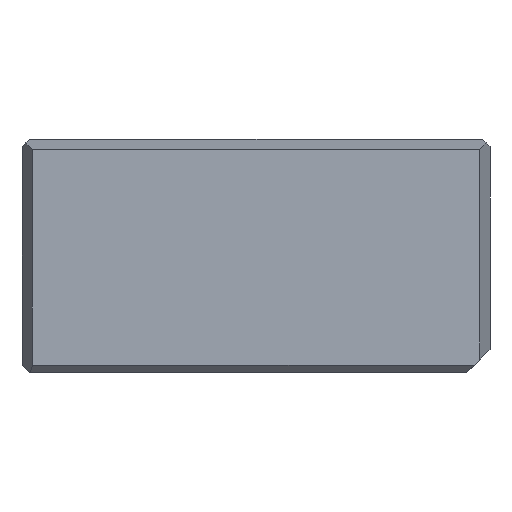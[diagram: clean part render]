
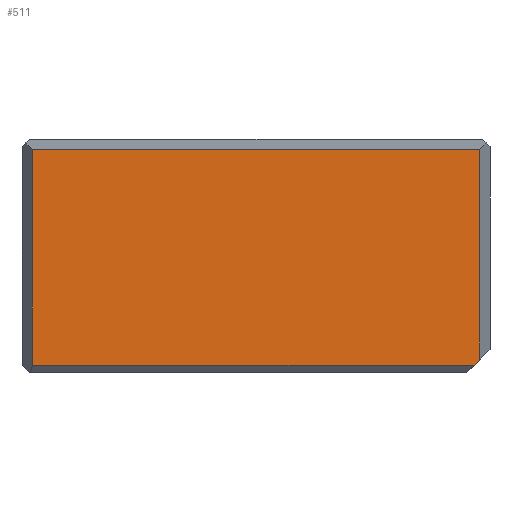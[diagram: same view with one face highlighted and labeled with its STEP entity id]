
A CAD part, left-side view. The second image highlights one B-rep face of the part: STEP entity #511.
In plain terms, the highlighted planar face has unit normal (-1, 0, 0).
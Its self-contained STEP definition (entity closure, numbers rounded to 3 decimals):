
#47=LINE('',#782,#99);
#55=LINE('',#800,#107);
#63=LINE('',#816,#115);
#71=LINE('',#831,#123);
#72=LINE('',#833,#124);
#99=VECTOR('',#642,10.);
#107=VECTOR('',#658,10.);
#115=VECTOR('',#672,10.);
#123=VECTOR('',#686,10.);
#124=VECTOR('',#689,10.);
#144=PLANE('',#569);
#168=FACE_OUTER_BOUND('',#198,.T.);
#198=EDGE_LOOP('',(#440,#441,#442,#443,#444));
#245=VERTEX_POINT('',#779);
#246=VERTEX_POINT('',#781);
#252=VERTEX_POINT('',#799);
#257=VERTEX_POINT('',#814);
#261=VERTEX_POINT('',#829);
#297=EDGE_CURVE('',#245,#246,#47,.T.);
#307=EDGE_CURVE('',#246,#252,#55,.T.);
#315=EDGE_CURVE('',#257,#245,#63,.T.);
#323=EDGE_CURVE('',#261,#257,#71,.T.);
#324=EDGE_CURVE('',#252,#261,#72,.T.);
#440=ORIENTED_EDGE('',*,*,#297,.F.);
#441=ORIENTED_EDGE('',*,*,#315,.F.);
#442=ORIENTED_EDGE('',*,*,#323,.F.);
#443=ORIENTED_EDGE('',*,*,#324,.F.);
#444=ORIENTED_EDGE('',*,*,#307,.F.);
#511=ADVANCED_FACE('',(#168),#144,.T.);
#569=AXIS2_PLACEMENT_3D('',#836,#693,#694);
#642=DIRECTION('',(0.,1.,0.));
#658=DIRECTION('',(0.,0.,1.));
#672=DIRECTION('',(0.,0.707,-0.707));
#686=DIRECTION('',(0.,0.,-1.));
#689=DIRECTION('',(0.,-1.,0.));
#693=DIRECTION('center_axis',(-1.,0.,0.));
#694=DIRECTION('ref_axis',(0.,-1.,0.));
#779=CARTESIAN_POINT('',(-150.,2.,1.));
#781=CARTESIAN_POINT('',(-150.,58.66,1.));
#782=CARTESIAN_POINT('',(-150.,45.,1.));
#799=CARTESIAN_POINT('',(-150.,58.66,28.66));
#800=CARTESIAN_POINT('',(-150.,58.66,0.));
#814=CARTESIAN_POINT('',(-150.,1.34,1.66));
#816=CARTESIAN_POINT('',(-150.,16.5,-13.5));
#829=CARTESIAN_POINT('',(-150.,1.34,28.66));
#831=CARTESIAN_POINT('',(-150.,1.34,0.));
#833=CARTESIAN_POINT('',(-150.,45.,28.66));
#836=CARTESIAN_POINT('Origin',(-150.,60.,0.));
